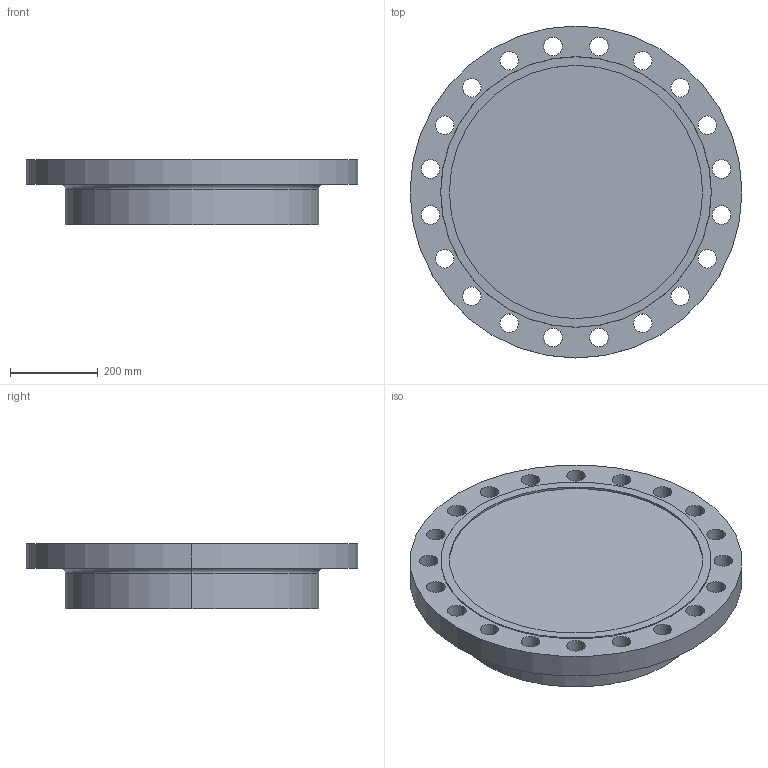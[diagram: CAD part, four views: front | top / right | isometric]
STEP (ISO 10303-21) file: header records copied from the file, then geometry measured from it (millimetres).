
FILE_DESCRIPTION (( 'STEP AP214' ), '1' );
FILE_NAME ('PN40 DN500 Type 21(i) - Type F Face.STEP', '2018-12-29T04:25:33', ( '' ), ( '' ), 'SwSTEP 2.0', 'SolidWorks 2019', '' );
FILE_SCHEMA (( 'AUTOMOTIVE_DESIGN' ));
Length unit declared in the file: millimetre
Products named in the file (1): PN40 DN500 Type 21(i) - Type F Face
Bounding box: 755 x 755 x 150 mm (x, y, z)
Volume: 46681273.4 mm3; surface area: 1286896.6 mm2
Topology: 1 solids, 1 shells, 55 faces, 148 edges, 98 vertices
Faces by surface type: cylinder 46, plane 5, torus 2, cone 2
Entity records: 1900 total; most frequent: DIRECTION 360, CARTESIAN_POINT 302, ORIENTED_EDGE 296, AXIS2_PLACEMENT_3D 156, EDGE_CURVE 148, CIRCLE 100, VERTEX_POINT 98, EDGE_LOOP 98
